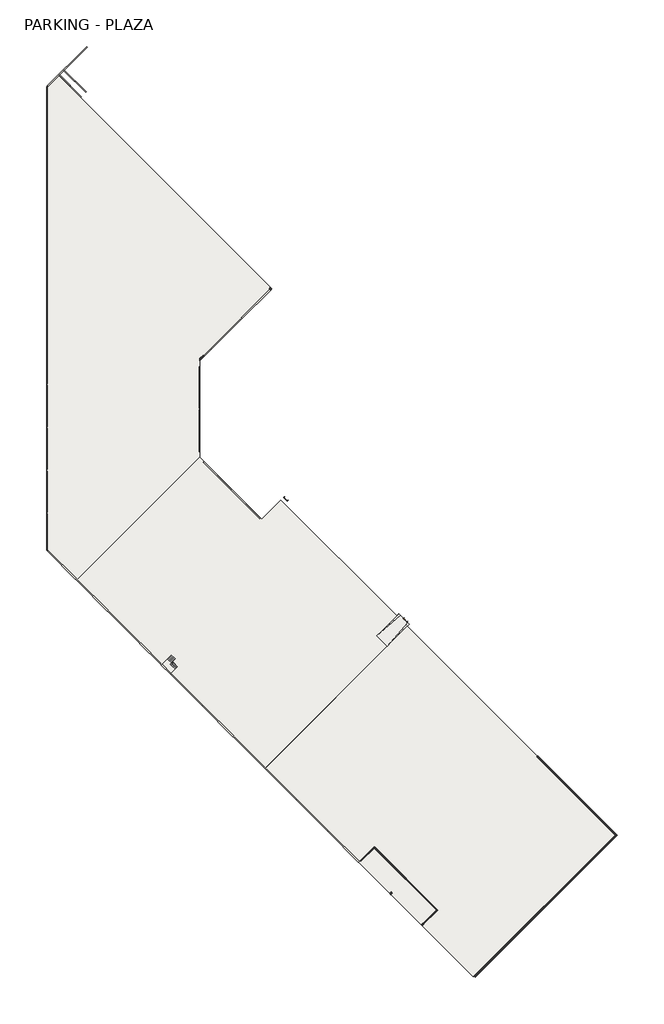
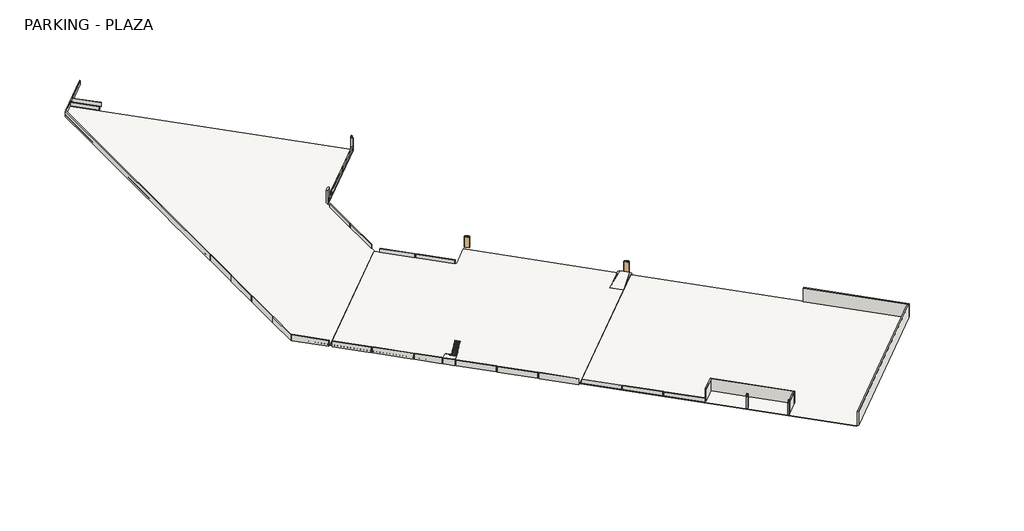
# One storey: 32 walls, 5 slabs, 3 columns, 2 doors, 2 stair flights.
"""IFC4 building model written with IfcOpenShell, lengths in millimetres."""

from ifc_helpers import new_model, si_unit, frame, origin, place, context, project, spatial, polyline, outline, extrude, faceted_brep, transform, mapped, element, save
from components import door_25aa1bd3, door_ce57b39e

model = new_model("IFC4")

# Units and contexts
model_context = context("Model", 3, world=origin())
ifc_project = project(units=[si_unit("LENGTHUNIT", "METRE", prefix="MILLI")], contexts=[model_context])

# Site, building, storey
site = spatial("IfcSite", under=ifc_project)
building = spatial("IfcBuilding", under=site)
storey = spatial("IfcBuildingStorey", under=building, Name="PARKING - PLAZA", Elevation=-152.4)

# Columns
placement = place(None, origin())
element("IfcColumn", 1, ObjectType="Rectangular Column : 12\" x 16\"", at=placement, inside=storey, context=model_context, shape_type="SweptSolid", body=[
    extrude(outline(polyline([(3378.2, 0.0), (3378.2, -406.4), (0.0, -406.4), (0.0, -152.4000001), (508.0, -152.4000001), (508.0, 0.0), (3378.2, 0.0)])), frame((-13489.2741578, -35529.594529, 3225.8), z_axis=(-0.7071067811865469, 0.7071067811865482, 0.0), x_axis=(0.0, 0.0, -1.0)), (0.0, 0.0, 1.0), 304.8),
])
element("IfcColumn", 2, ObjectType="Rectangular Column : 12\" x 16\"", at=placement, inside=storey, context=model_context, shape_type="Brep", body=[
    faceted_brep([(-7167.1738485, -41276.9584465, -152.4), (-7454.5420444, -41564.3266424, -152.4), (-7670.0681913, -41348.8004954, -152.4), (-7382.6999954, -41061.4322996, -152.4), (-7346.778971, -41097.3533241, -152.4), (-7490.4630689, -41241.037422, -152.4), (-7346.778971, -41384.7215199, -152.4), (-7203.094873, -41241.037422, -152.4), (-7167.1738485, -41276.9584465, 3225.8), (-7203.094873, -41241.037422, 2768.6), (-7239.0158975, -41205.1163975, 2768.6), (-7239.0158975, -41205.1163975, 3225.8), (-7346.778971, -41456.5635689, 3225.8), (-7346.778971, -41456.5635689, 2717.8), (-7454.5420444, -41564.3266424, 2717.8), (-7670.0681913, -41348.8004954, 2717.8), (-7562.3051179, -41241.037422, 2717.8), (-7562.3051179, -41241.037422, 3225.8), (-7382.6999954, -41061.4322996, 3225.8), (-7346.778971, -41097.3533241, 3225.8), (-7526.3840934, -41276.9584465, 3225.8), (-7490.4630689, -41241.037422, 2768.6), (-7346.778971, -41097.3533241, 2768.6), (-7346.778971, -41384.7215199, 2768.6), (-7382.6999954, -41348.8004954, 2768.6), (-7418.6210199, -41384.7215199, 2768.6), (-7418.6210199, -41384.7215199, 3225.8), (-7526.3840934, -41276.9584465, 2768.6)], [[[0, 1, 2, 3, 4, 5, 6, 7]], [[8, 0, 7, 9, 10, 11]], [[1, 0, 8, 12, 13, 14]], [[2, 1, 14, 15]], [[3, 2, 15, 16, 17, 18]], [[19, 18, 17, 20]], [[21, 5, 4, 22]], [[6, 23, 9, 7]], [[5, 21, 24, 23, 6]], [[9, 23, 24, 10]], [[11, 10, 24, 25, 26]], [[22, 19, 20, 27, 21]], [[21, 27, 25, 24]], [[3, 18, 19, 22, 4]], [[16, 13, 12, 26, 25, 27, 20, 17]], [[13, 16, 15, 14]], [[8, 11, 26, 12]]]),
])
element("IfcColumn", 3, ObjectType="Rectangular Column : 12\" x 16\"", at=placement, inside=storey, context=model_context, shape_type="Brep", body=[
    faceted_brep([(-36945.703146, 81034.1299225, -152.4), (-36730.1769991, 81249.6560694, -152.4), (-36442.8088032, 80962.2878735, -152.4), (-36658.3349501, 80746.7617266, -152.4), (-36766.0980236, 80854.5248001, -152.4), (-36442.8088032, 80962.2878735, 2768.6), (-36658.3349501, 80746.7617266, 2768.6), (-36658.3349501, 80746.7617266, 762.0), (-36730.1769991, 81249.6560694, 3225.8), (-36550.5718767, 81070.050947, 3225.8), (-36550.5718767, 81070.050947, 2768.6), (-36945.703146, 81034.1299225, 3225.8), (-36766.0980236, 80854.5248001, 2768.6), (-36766.0980236, 80854.5248001, 3225.8)], [[[0, 1, 2, 3, 4]], [[3, 2, 5, 6, 7]], [[2, 1, 8, 9, 10, 5]], [[1, 0, 11, 8]], [[11, 0, 4, 3, 7, 6, 12, 13]], [[8, 11, 13, 9]], [[12, 10, 9, 13]], [[10, 12, 6, 5]]]),
])

# Doors
door_shape = door_25aa1bd3(model_context)
element("IfcDoor", 4, ObjectType="Single Flush-Full Flush-FF : 3'-0\" X 8'-6\"", at=placement, inside=storey, context=model_context, shape_type="MappedRepresentation", body=[
    mapped(door_shape, transform((-33726.2813266, 40564.6057129, -152.4), x_axis=(0.7071067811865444, -0.7071067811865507, 0.0), y_axis=(0.7071067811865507, 0.7071067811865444, 0.0), z_axis=(0.0, 0.0, 1.0))),
])
door_2_shape = door_ce57b39e(model_context)
element("IfcDoor", 5, ObjectType="Single Flush-Full Flush-FF : 3'-0\" X 8'-6\"", at=placement, inside=storey, context=model_context, shape_type="MappedRepresentation", body=[
    mapped(door_2_shape, transform((-10687.434248, 17310.2324874, -152.4), x_axis=(-0.7071067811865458, 0.7071067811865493, 0.0), y_axis=(-0.7071067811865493, -0.7071067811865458, 0.0), z_axis=(0.0, 0.0, 1.0))),
])

# Slabs
element("IfcSlab", 6, ObjectType="5\" Concrete Slab", at=placement, inside=storey, context=model_context, shape_type="SweptSolid", body=[
    extrude(outline(polyline([(2351.8976398, -51370.7663266), (-37718.0051724, -11300.8635144), (-10364.1450276, 16052.9966304), (14627.9077573, -8939.0561545), (14538.1051961, -9028.8587157), (29615.9552234, -24106.708743), (2351.8976398, -51370.7663266)])), frame((0.0, 0.0, -279.4), z_axis=(0.0, 0.0, 1.0), x_axis=(1.0, 0.0, 0.0)), (0.0, 0.0, 1.0), 127.0),
])
element("IfcSlab", 7, ObjectType="5\" Concrete Slab", at=placement, inside=storey, context=model_context, shape_type="Brep", body=[
    faceted_brep([(-9986.9742705, 16466.088412, -279.4), (-9986.9742705, 16466.088412, -152.4), (-14243.6156719, 12209.4470106, -152.4), (-14243.6156719, 12209.4470106, -279.4), (-16255.1930431, 14221.0243817, -152.4), (-16255.1930431, 14221.0243817, -279.4), (-11998.5516417, 18477.6657831, -152.4), (-11998.5516417, 18477.6657831, -279.4), (-11729.143958, 18208.2580995, 0.0), (-10243.8852935, 16722.999435, 0.0), (-10243.8852935, 16722.999435, -127.0), (-11729.143958, 18208.2580995, -127.0)], [[[0, 1, 2, 3]], [[3, 2, 4, 5]], [[5, 4, 6, 7]], [[7, 6, 8, 9, 1, 0, 10, 11]], [[6, 4, 8]], [[7, 11, 5]], [[2, 1, 9]], [[3, 10, 0]], [[4, 2, 9, 8]], [[5, 11, 10, 3]]]),
])
element("IfcSlab", 8, ObjectType="5\" Concrete Slab", at=placement, inside=storey, context=model_context, shape_type="SweptSolid", body=[
    extrude(outline(polyline([(-77536.4608132, 122055.9398835), (-36442.8088032, 80962.2878735), (-50248.8083521, 67156.2883246), (-50248.8083521, 48656.9607152), (-73962.318877, 24943.4501903), (-79741.113691, 30722.2450042), (-79741.113691, 119851.2870058), (-77536.4608132, 122055.9398835)])), frame((0.0, 0.0, -279.4), z_axis=(0.0, 0.0, 1.0), x_axis=(1.0, 0.0, 0.0)), (0.0, 0.0, 1.0), 127.0),
])
element("IfcSlab", 9, ObjectType="5\" Concrete Slab", at=placement, inside=storey, context=model_context, shape_type="SweptSolid", body=[
    extrude(outline(polyline([(-37753.9261969, -11264.9424899), (-73926.3978526, 24907.5291658), (-50290.3637419, 48543.5632765), (-38378.0539973, 36631.2535319), (-34660.2279632, 40349.079566), (-12393.682911, 18082.5345138), (-11998.5516417, 18477.6657831), (-10220.4609297, 16699.5750711), (-10597.6316868, 16322.4043141), (-10382.1055399, 16106.8781672), (-37753.9261969, -11264.9424899)])), frame((0.0, 0.0, -279.4), z_axis=(0.0, 0.0, 1.0), x_axis=(1.0, 0.0, 0.0)), (0.0, 0.0, 1.0), 127.0),
])
element("IfcSlab", 10, ObjectType="7\" Thickness", at=placement, inside=storey, context=model_context, shape_type="Brep", body=[
    faceted_brep([(-57528.4501755, 8725.1076356, 736.6), (-55840.4519965, 7037.1094566, 736.6), (-55114.7292448, 7762.8322083, 736.6), (-55014.2684334, 7863.2930198, 736.6), (-55000.7980492, 7876.763404, 736.6), (-55737.1790511, 8613.1444059, 736.6), (-55750.6494353, 8599.6740217, 736.6), (-55789.1934084, 8561.1300486, 736.6), (-56004.4295835, 8776.3662237, 736.6), (-55865.4247989, 8915.3710083, 736.6), (-55768.3199758, 9012.4758315, 736.6), (-56504.7009777, 9748.8568334, 736.6), (-56601.8058009, 9651.7520102, 736.6), (-56518.1713619, 9735.3864493, 558.8), (-56518.1713619, 9735.3864493, 483.532845), (-56601.8058009, 9651.7520102, 558.8), (-57528.4501755, 8725.1076356, 558.8), (-55840.4519965, 7037.1094566, 558.8), (-55014.2684334, 7863.2930198, 649.2101177), (-55000.7980492, 7876.763404, 661.332845), (-55737.1790511, 8613.1444059, 661.332845), (-55750.6494353, 8599.6740217, 649.2101177), (-55789.1934084, 8561.1300486, 614.5223116), (-55789.1934084, 8561.1300486, 558.8), (-56004.4295835, 8776.3662237, 558.8), (-55851.1102468, 8499.2132102, 558.8), (-55114.7292448, 7762.8322083, 558.8), (-55865.4247989, 8915.3710083, 558.8), (-55781.7903599, 8999.0054473, 483.532845), (-55781.7903599, 8999.0054473, 558.8)], [[[0, 1, 2, 3, 4, 5, 6, 7, 8, 9, 10, 11, 12]], [[11, 13, 14, 15, 16, 0, 12]], [[1, 0, 16, 17]], [[4, 3, 18, 19]], [[6, 5, 20, 21]], [[7, 6, 21, 22]], [[8, 7, 22, 23, 24]], [[23, 25, 26, 17, 16, 15, 27, 24]], [[27, 15, 14, 28]], [[26, 25, 22, 21, 20, 19, 18]], [[11, 10, 29, 13]], [[13, 29, 28, 14]], [[1, 17, 26, 18, 3, 2]], [[5, 4, 19, 20]], [[29, 10, 9, 8, 24, 27, 28]], [[25, 23, 22]]]),
])

# Stair flights
element("IfcStairFlight", 11, ObjectType="3/4\" Nosing", at=placement, inside=storey, context=model_context, shape_type="Brep", body=[
    faceted_brep([(-55714.438439, 10539.1193721, 25.4), (-54978.0574371, 9802.7383702, 25.4), (-54991.5278213, 9789.267986, -152.4), (-55727.9088232, 10525.6489879, -152.4), (-55925.4744579, 10328.0833532, 25.4), (-55189.093456, 9591.7023513, 25.4), (-55189.093456, 9591.7023513, -49.867155), (-55075.1622603, 9705.633547, -152.4), (-55811.5432622, 10442.0145489, -152.4), (-55925.4744579, 10328.0833532, -49.867155), (-55175.6230718, 9605.1727355, 203.2), (-55912.0040737, 10341.5537374, 203.2), (-56123.0400925, 10130.5177186, 203.2), (-55386.6590906, 9394.1367167, 203.2), (-55386.6590906, 9394.1367167, 127.932845), (-56123.0400925, 10130.5177186, 127.932845), (-55373.1887064, 9407.6071008, 381.0), (-56109.5697084, 10143.9881028, 381.0), (-56320.6057272, 9932.9520839, 381.0), (-55584.2247253, 9196.571082, 381.0), (-55584.2247253, 9196.571082, 305.732845), (-56320.6057272, 9932.9520839, 305.732845), (-55781.7903599, 8999.0054473, 558.8), (-55768.3199758, 9012.4758315, 558.8), (-55570.7543411, 9210.0414662, 558.8), (-56307.135343, 9946.4224681, 558.8), (-56504.7009777, 9748.8568334, 558.8), (-56518.1713619, 9735.3864493, 558.8), (-55781.7903599, 8999.0054473, 483.532845), (-55768.3199758, 9012.4758315, 471.4101177), (-56504.7009777, 9748.8568334, 471.4101177), (-56518.1713619, 9735.3864493, 483.532845)], [[[0, 1, 2, 3]], [[1, 0, 4, 5]], [[1, 5, 6, 7, 2]], [[4, 0, 3, 8, 9]], [[10, 11, 12, 13]], [[10, 13, 14, 6, 5]], [[12, 11, 4, 9, 15]], [[5, 4, 11, 10]], [[16, 17, 18, 19]], [[16, 19, 20, 14, 13]], [[18, 17, 12, 15, 21]], [[13, 12, 17, 16]], [[22, 23, 24, 25, 26, 27]], [[23, 22, 28, 29]], [[26, 25, 18, 21, 30]], [[22, 27, 31, 28]], [[19, 18, 25, 24]], [[3, 2, 7, 8]], [[8, 7, 6, 14, 20, 29, 28, 31, 30, 21, 15, 9]], [[24, 23, 29, 20, 19]], [[27, 26, 30, 31]]]),
])
element("IfcStairFlight", 12, ObjectType="3/4\" Nosing", at=placement, inside=storey, context=model_context, shape_type="Brep", body=[
    faceted_brep([(-55014.2684334, 7863.2930198, 914.4), (-55750.6494353, 8599.6740217, 914.4), (-55737.1790511, 8613.1444059, 736.6), (-55000.7980492, 7876.763404, 736.6), (-54803.2324145, 8074.3290386, 914.4), (-55539.6134164, 8810.7100406, 914.4), (-55539.6134164, 8810.7100406, 839.132845), (-55737.1790511, 8613.1444059, 661.332845), (-55000.7980492, 7876.763404, 661.332845), (-54803.2324145, 8074.3290386, 839.132845), (-55553.0838006, 8797.2396564, 1092.2), (-54816.7027987, 8060.8586544, 1092.2), (-54605.6667799, 8271.8946733, 1092.2), (-55342.0477818, 9008.2756752, 1092.2), (-55342.0477818, 9008.2756752, 1016.932845), (-54605.6667799, 8271.8946733, 1016.932845), (-55355.518166, 8994.805291, 1270.0), (-54619.137164, 8258.4242891, 1270.0), (-54408.1011452, 8469.460308, 1270.0), (-55144.4821471, 9205.8413099, 1270.0), (-55144.4821471, 9205.8413099, 1194.732845), (-54408.1011452, 8469.460308, 1194.732845), (-55157.9525313, 9192.3709257, 1447.8), (-54421.5715294, 8455.9899238, 1447.8), (-54210.5355105, 8667.0259426, 1447.8), (-54946.9165125, 9403.4069445, 1447.8), (-54946.9165125, 9403.4069445, 1372.532845), (-54210.5355105, 8667.0259426, 1372.532845), (-54960.3868966, 9389.9365604, 1625.6), (-54224.0058947, 8653.5555584, 1625.6), (-54012.9698759, 8864.5915773, 1625.6), (-54749.3508778, 9600.9725792, 1625.6), (-54749.3508778, 9600.9725792, 1550.332845), (-54012.9698759, 8864.5915773, 1550.332845), (-54762.821262, 9587.502195, 1803.4), (-54026.44026, 8851.1211931, 1803.4), (-53815.4042412, 9062.1572119, 1803.4), (-54551.7852431, 9798.5382139, 1803.4), (-54551.7852431, 9798.5382139, 1728.132845), (-53815.4042412, 9062.1572119, 1728.132845), (-54565.2556273, 9785.0678297, 1981.2), (-53828.8746254, 9048.6868278, 1981.2), (-53617.8386065, 9259.7228466, 1981.2), (-54354.2196085, 9996.1038485, 1981.2), (-54354.2196085, 9996.1038485, 1905.932845), (-53617.8386065, 9259.7228466, 1905.932845), (-54367.6899926, 9982.6334644, 2159.0), (-53631.3089907, 9246.2524624, 2159.0), (-53420.2729719, 9457.2884813, 2159.0), (-54156.6539738, 10193.6694832, 2159.0), (-54156.6539738, 10193.6694832, 2083.732845), (-53420.2729719, 9457.2884813, 2083.732845), (-54170.124358, 10180.199099, 2336.8), (-53433.7433561, 9443.8180971, 2336.8), (-53222.7073372, 9654.8541159, 2336.8), (-53959.0883391, 10391.2351179, 2336.8), (-53959.0883391, 10391.2351179, 2261.532845), (-53222.7073372, 9654.8541159, 2261.532845), (-53774.9930887, 10575.3303683, 2427.2101177), (-53038.6120867, 9838.9493664, 2427.2101177), (-53972.5587233, 10377.7647337, 2514.6), (-53236.1777214, 9641.3837318, 2514.6), (-53038.6120867, 9838.9493664, 2514.6), (-53774.9930887, 10575.3303683, 2514.6)], [[[0, 1, 2, 3]], [[1, 0, 4, 5]], [[1, 5, 6, 7, 2]], [[3, 2, 7, 8]], [[4, 0, 3, 8, 9]], [[10, 11, 12, 13]], [[10, 13, 14, 6, 5]], [[12, 11, 4, 9, 15]], [[11, 10, 5, 4]], [[16, 17, 18, 19]], [[16, 19, 20, 14, 13]], [[18, 17, 12, 15, 21]], [[17, 16, 13, 12]], [[22, 23, 24, 25]], [[22, 25, 26, 20, 19]], [[24, 23, 18, 21, 27]], [[23, 22, 19, 18]], [[28, 29, 30, 31]], [[28, 31, 32, 26, 25]], [[30, 29, 24, 27, 33]], [[29, 28, 25, 24]], [[34, 35, 36, 37]], [[34, 37, 38, 32, 31]], [[36, 35, 30, 33, 39]], [[35, 34, 31, 30]], [[40, 41, 42, 43]], [[40, 43, 44, 38, 37]], [[42, 41, 36, 39, 45]], [[41, 40, 37, 36]], [[46, 47, 48, 49]], [[46, 49, 50, 44, 43]], [[48, 47, 42, 45, 51]], [[47, 46, 43, 42]], [[52, 53, 54, 55]], [[52, 55, 56, 50, 49]], [[54, 53, 48, 51, 57]], [[53, 52, 49, 48]], [[7, 6, 14, 20, 26, 32, 38, 44, 50, 56, 58, 59, 57, 51, 45, 39, 33, 27, 21, 15, 9, 8]], [[60, 61, 62, 63]], [[60, 63, 58, 56, 55]], [[62, 61, 54, 57, 59]], [[63, 62, 59, 58]], [[61, 60, 55, 54]]]),
])

# Walls
element("IfcWall", 13, ObjectType="01-CONCRETE-12", at=placement, inside=storey, context=model_context, shape_type="Brep", body=[
    faceted_brep([(14538.1051961, -9028.8587157, -152.4), (29615.9552234, -24106.708743, -152.4), (29831.4813703, -24322.2348899, -152.4), (29831.4813703, -24322.2348899, 3073.4), (29615.9552234, -24106.708743, 3073.4), (14538.1051961, -9028.8587157, 3073.4), (14753.631343, -8813.3325688, -152.4), (14753.631343, -8813.3325688, 3073.4), (30047.0075172, -24106.708743, 3073.4), (30047.0075172, -24106.708743, -152.4)], [[[0, 1, 2, 3, 4, 5]], [[6, 7, 8, 9]], [[2, 1, 0, 6, 9]], [[5, 4, 3, 8, 7]], [[0, 5, 7, 6]], [[3, 2, 9, 8]]]),
])
element("IfcWall", 14, ObjectType="01-CONCRETE-12", at=placement, inside=storey, context=model_context, shape_type="SweptSolid", body=[
    extrude(outline(polyline([(2459.6607133, -51263.0032531), (29615.9552234, -24106.708743), (29831.4813703, -24322.2348899), (2675.1868602, -51478.5294), (2459.6607133, -51263.0032531)])), frame((0.0, 0.0, -152.4), z_axis=(0.0, 0.0, 1.0), x_axis=(1.0, 0.0, 0.0)), (0.0, 0.0, 1.0), 3225.8),
])
element("IfcWall", 15, ObjectType="01-CONCRETE-12", at=placement, inside=storey, context=model_context, shape_type="Brep", body=[
    faceted_brep([(-50248.8083521, 67156.2883246, 3098.8), (-50248.8083521, 67156.2883246, -152.4), (-49386.7037645, 68018.3929123, -152.4), (-49386.7037645, 68018.3929123, 762.0), (-49386.7037645, 68018.3929123, 3098.8), (-50248.8083521, 67587.3406185, -152.4), (-50248.8083521, 67587.3406185, 2768.6), (-50248.8083521, 67587.3406185, 3098.8), (-49602.2299114, 68233.9190592, 3098.8), (-49602.2299114, 68233.9190592, -152.4), (-49494.4668379, 68126.1559857, -152.4), (-50248.8083521, 67371.8144716, 3098.8)], [[[0, 1, 2, 3, 4]], [[5, 6, 7, 8, 9]], [[2, 1, 5, 9, 10]], [[4, 3, 2, 10, 9, 8]], [[0, 4, 8, 7, 11]], [[0, 11, 7, 6, 5, 1]]]),
])
element("IfcWall", 16, ObjectType="01-CONCRETE-6", at=placement, inside=storey, context=model_context, shape_type="SweptSolid", body=[
    extrude(outline(polyline([(-37394.7159521, -11408.6265878), (-31701.2335713, -17102.1089686), (-31808.9966447, -17209.872042), (-37502.4790255, -11516.3896613), (-37394.7159521, -11408.6265878)])), frame((0.0, 0.0, -152.4), z_axis=(0.0, 0.0, 1.0), x_axis=(1.0, 0.0, 0.0)), (0.0, 0.0, 1.0), 914.4),
])
element("IfcWall", 17, ObjectType="01-CONCRETE-6", at=placement, inside=storey, context=model_context, shape_type="SweptSolid", body=[
    extrude(outline(polyline([(-25774.2645314, -23244.6041554), (-31593.4704978, -17425.3981889), (-31485.7074244, -17317.6351155), (-25666.5014579, -23136.8410819), (-25774.2645314, -23244.6041554)])), frame((0.0, 0.0, -152.4), z_axis=(0.0, 0.0, 1.0), x_axis=(1.0, 0.0, 0.0)), (0.0, 0.0, 1.0), 914.4),
])
element("IfcWall", 18, ObjectType="01-CONCRETE-6", at=placement, inside=storey, context=model_context, shape_type="SweptSolid", body=[
    extrude(outline(polyline([(-25450.975311, -23352.3672288), (-19631.7693446, -29171.5731953), (-19739.532418, -29279.3362687), (-25558.7383845, -23460.1303023), (-25450.975311, -23352.3672288)])), frame((0.0, 0.0, -152.4), z_axis=(0.0, 0.0, 1.0), x_axis=(1.0, 0.0, 0.0)), (0.0, 0.0, 1.0), 914.4),
])
element("IfcWall", 19, ObjectType="01-CONCRETE-6", at=placement, inside=storey, context=model_context, shape_type="SweptSolid", body=[
    extrude(outline(polyline([(-37969.4523438, -11049.416343), (-43662.9347246, -5355.9339622), (-43555.1716511, -5248.1708888), (-37861.6892703, -10941.6532695), (-37969.4523438, -11049.416343)])), frame((0.0, 0.0, -609.6), z_axis=(0.0, 0.0, 1.0), x_axis=(1.0, 0.0, 0.0)), (0.0, 0.0, 1.0), 1371.6),
])
element("IfcWall", 20, ObjectType="01-CONCRETE-6", at=placement, inside=storey, context=model_context, shape_type="SweptSolid", body=[
    extrude(outline(polyline([(-49589.9037645, 786.5612246), (-43770.697798, -5032.6447418), (-43878.4608715, -5140.4078153), (-49697.6668379, 678.7981512), (-49589.9037645, 786.5612246)])), frame((0.0, 0.0, -609.6), z_axis=(0.0, 0.0, 1.0), x_axis=(1.0, 0.0, 0.0)), (0.0, 0.0, 1.0), 1371.6),
])
element("IfcWall", 21, ObjectType="01-CONCRETE-6", at=placement, inside=storey, context=model_context, shape_type="SweptSolid", body=[
    extrude(outline(polyline([(-49913.1929848, 894.3242981), (-55732.3989513, 6713.5302645), (-55624.6358778, 6821.293338), (-49805.4299114, 1002.0873715), (-49913.1929848, 894.3242981)])), frame((0.0, 0.0, -609.6), z_axis=(0.0, 0.0, 1.0), x_axis=(1.0, 0.0, 0.0)), (0.0, 0.0, 1.0), 1371.6),
])
element("IfcWall", 22, ObjectType="01-CONCRETE-6", at=placement, inside=storey, context=model_context, shape_type="SweptSolid", body=[
    extrude(outline(polyline([(-61659.3679912, 12856.0254513), (-57743.9763224, 8940.6337825), (-57851.7393958, 8832.8707091), (-61767.1310646, 12748.2623779), (-61659.3679912, 12856.0254513)])), frame((0.0, 0.0, -609.6), z_axis=(0.0, 0.0, 1.0), x_axis=(1.0, 0.0, 0.0)), (0.0, 0.0, 1.0), 1371.6),
])
element("IfcWall", 23, ObjectType="01-CONCRETE-6", at=placement, inside=storey, context=model_context, shape_type="SweptSolid", body=[
    extrude(outline(polyline([(-61982.6572115, 12963.7885248), (-67801.863178, 18782.9944912), (-67694.1001045, 18890.7575647), (-61874.8941381, 13071.5515982), (-61982.6572115, 12963.7885248)])), frame((0.0, 0.0, -609.6), z_axis=(0.0, 0.0, 1.0), x_axis=(1.0, 0.0, 0.0)), (0.0, 0.0, 1.0), 1371.6),
])
element("IfcWall", 24, ObjectType="01-CONCRETE-6", at=placement, inside=storey, context=model_context, shape_type="SweptSolid", body=[
    extrude(outline(polyline([(-73603.1086322, 24799.7660923), (-67909.6262514, 19106.2837116), (-68017.3893249, 18998.5206381), (-73710.8717057, 24692.0030189), (-73603.1086322, 24799.7660923)])), frame((0.0, 0.0, -609.6), z_axis=(0.0, 0.0, 1.0), x_axis=(1.0, 0.0, 0.0)), (0.0, 0.0, 1.0), 1371.6),
])
element("IfcWall", 25, ObjectType="01-CONCRETE-6", at=placement, inside=storey, context=model_context, shape_type="SweptSolid", body=[
    extrude(outline(polyline([(-74177.845024, 25158.9763372), (-79525.587544, 30506.7188573), (-79417.8244706, 30614.4819307), (-74070.0819505, 25266.7394106), (-74177.845024, 25158.9763372)])), frame((0.0, 0.0, -609.6), z_axis=(0.0, 0.0, 1.0), x_axis=(1.0, 0.0, 0.0)), (0.0, 0.0, 1.0), 1371.6),
])
element("IfcWall", 26, ObjectType="01-CONCRETE-6", at=placement, inside=storey, context=model_context, shape_type="Brep", body=[
    faceted_brep([(-79588.713691, 30722.2450042, -609.6), (-79588.713691, 30874.6450042, -609.6), (-79588.713691, 37705.0660287, -609.6), (-79588.713691, 37705.0660287, 762.0), (-79588.713691, 30874.6450042, 762.0), (-79588.713691, 30722.2450042, 762.0), (-79741.113691, 30722.2450042, -609.6), (-79741.113691, 30722.2450042, 762.0), (-79741.113691, 37705.0660287, 762.0), (-79741.113691, 37705.0660287, -609.6)], [[[0, 1, 2, 3, 4, 5]], [[6, 7, 8, 9]], [[2, 1, 0, 6, 9]], [[3, 2, 9, 8]], [[5, 4, 3, 8, 7]], [[0, 5, 7, 6]]]),
])
element("IfcWall", 27, ObjectType="01-CONCRETE-6", at=placement, inside=storey, context=model_context, shape_type="SweptSolid", body=[
    extrude(outline(polyline([(-79741.113691, 38009.8660287), (-79741.113691, 45934.6660287), (-79588.713691, 45934.6660287), (-79588.713691, 38009.8660287), (-79741.113691, 38009.8660287)])), frame((0.0, 0.0, -609.6), z_axis=(0.0, 0.0, 1.0), x_axis=(1.0, 0.0, 0.0)), (0.0, 0.0, 1.0), 1371.6),
])
element("IfcWall", 28, ObjectType="01-CONCRETE-6", at=placement, inside=storey, context=model_context, shape_type="SweptSolid", body=[
    extrude(outline(polyline([(-79588.713691, 54164.2660287), (-79588.713691, 46239.4660287), (-79741.113691, 46239.4660287), (-79741.113691, 54164.2660287), (-79588.713691, 54164.2660287)])), frame((0.0, 0.0, -609.6), z_axis=(0.0, 0.0, 1.0), x_axis=(1.0, 0.0, 0.0)), (0.0, 0.0, 1.0), 1371.6),
])
element("IfcWall", 29, ObjectType="01-CONCRETE-6", at=placement, inside=storey, context=model_context, shape_type="SweptSolid", body=[
    extrude(outline(polyline([(-55947.9250982, 6929.0564114), (-57636.2132489, 8617.3445622), (-57528.4501755, 8725.1076356), (-55840.1620247, 7036.8194849), (-55947.9250982, 6929.0564114)])), frame((0.0, 0.0, -609.6), z_axis=(0.0, 0.0, 1.0), x_axis=(1.0, 0.0, 0.0)), (0.0, 0.0, 1.0), 1371.6),
])
element("IfcWall", 30, ObjectType="01-CONCRETE-6", at=placement, inside=storey, context=model_context, shape_type="SweptSolid", body=[
    extrude(outline(polyline([(-44165.8290673, 42419.0286019), (-38593.5801442, 36846.7796788), (-38701.3432177, 36739.0166053), (-44273.5921408, 42311.2655284), (-44165.8290673, 42419.0286019)])), frame((0.0, 0.0, -152.4), z_axis=(0.0, 0.0, 1.0), x_axis=(1.0, 0.0, 0.0)), (0.0, 0.0, 1.0), 914.4),
])
element("IfcWall", 31, ObjectType="01-CONCRETE-6", at=placement, inside=storey, context=model_context, shape_type="SweptSolid", body=[
    extrude(outline(polyline([(-49446.2196665, 47699.4192011), (-44381.3552142, 42634.5547488), (-44489.1182877, 42526.7916753), (-49553.98274, 47591.6561276), (-49446.2196665, 47699.4192011)])), frame((0.0, 0.0, -152.4), z_axis=(0.0, 0.0, 1.0), x_axis=(1.0, 0.0, 0.0)), (0.0, 0.0, 1.0), 914.4),
])
element("IfcWall", 32, ObjectType="01-CONCRETE-6", at=placement, inside=storey, context=model_context, shape_type="SweptSolid", body=[
    extrude(outline(polyline([(-50248.8083521, 57682.4896908), (-50248.8083521, 49637.0396908), (-50401.2083521, 49637.0396908), (-50401.2083521, 57682.4896908), (-50248.8083521, 57682.4896908)])), frame((0.0, 0.0, -152.4), z_axis=(0.0, 0.0, 1.0), x_axis=(1.0, 0.0, 0.0)), (0.0, 0.0, 1.0), 914.4),
])
element("IfcWall", 33, ObjectType="01-CONCRETE-6", at=placement, inside=storey, context=model_context, shape_type="SweptSolid", body=[
    extrude(outline(polyline([(-50401.2083521, 57987.2896908), (-50401.2083521, 66032.7396908), (-50248.8083521, 66032.7396908), (-50248.8083521, 57987.2896908), (-50401.2083521, 57987.2896908)])), frame((0.0, 0.0, -152.4), z_axis=(0.0, 0.0, 1.0), x_axis=(1.0, 0.0, 0.0)), (0.0, 0.0, 1.0), 914.4),
])
element("IfcWall", 34, ObjectType="01-CONCRETE-6", at=placement, inside=storey, context=model_context, shape_type="SweptSolid", body=[
    extrude(outline(polyline([(-48171.0232973, 69234.0733794), (-49386.7037645, 68018.3929123), (-49494.4668379, 68126.1559857), (-48278.7863708, 69341.8364529), (-48171.0232973, 69234.0733794)])), frame((0.0, 0.0, -152.4), z_axis=(0.0, 0.0, 1.0), x_axis=(1.0, 0.0, 0.0)), (0.0, 0.0, 1.0), 914.4),
])
element("IfcWall", 35, ObjectType="01-CONCRETE-6", at=placement, inside=storey, context=model_context, shape_type="SweptSolid", body=[
    extrude(outline(polyline([(-42351.8173309, 75053.2793459), (-47955.4971504, 69449.5995263), (-48063.2602239, 69557.3625998), (-42459.5804043, 75161.0424193), (-42351.8173309, 75053.2793459)])), frame((0.0, 0.0, -152.4), z_axis=(0.0, 0.0, 1.0), x_axis=(1.0, 0.0, 0.0)), (0.0, 0.0, 1.0), 914.4),
])
element("IfcWall", 36, ObjectType="01-CONCRETE-6", at=placement, inside=storey, context=model_context, shape_type="SweptSolid", body=[
    extrude(outline(polyline([(-42244.0542574, 75376.5685662), (-36766.0980236, 80854.5248001), (-36658.3349501, 80746.7617266), (-42136.291184, 75268.8054928), (-42244.0542574, 75376.5685662)])), frame((0.0, 0.0, -152.4), z_axis=(0.0, 0.0, 1.0), x_axis=(1.0, 0.0, 0.0)), (0.0, 0.0, 1.0), 914.4),
])
element("IfcWall", 37, ObjectType="01-CONCRETE-6", at=placement, inside=storey, context=model_context, shape_type="SweptSolid", body=[
    extrude(outline(polyline([(-79741.113691, 54469.0660287), (-79741.113691, 62393.8660287), (-79588.713691, 62393.8660287), (-79588.713691, 54469.0660287), (-79741.113691, 54469.0660287)])), frame((0.0, 0.0, -609.6), z_axis=(0.0, 0.0, 1.0), x_axis=(1.0, 0.0, 0.0)), (0.0, 0.0, 1.0), 1371.6),
])
element("IfcWall", 38, ObjectType="01-CONCRETE-6", at=placement, inside=storey, context=model_context, shape_type="Brep", body=[
    faceted_brep([(-79588.713691, 62698.6660287, -609.6), (-79588.713691, 70623.4660287, -609.6), (-79588.713691, 70928.2660287, -609.6), (-79588.713691, 78853.0660287, -609.6), (-79588.713691, 79157.8660287, -609.6), (-79588.713691, 87082.6660287, -609.6), (-79588.713691, 87387.4660287, -609.6), (-79588.713691, 95312.2660287, -609.6), (-79588.713691, 95617.0660287, -609.6), (-79588.713691, 103541.8660287, -609.6), (-79588.713691, 103846.6660287, -609.6), (-79588.713691, 111771.4660287, -609.6), (-79588.713691, 112076.2660287, -609.6), (-79588.713691, 119698.8870058, -609.6), (-79588.713691, 120003.6870058, -609.6), (-79588.713691, 120003.6870058, -279.4), (-79588.713691, 120003.6870058, -152.4), (-79588.713691, 120003.6870058, 762.0), (-79588.713691, 119788.1608589, 762.0), (-79588.713691, 62698.6660287, 762.0), (-79741.113691, 62698.6660287, -609.6), (-79741.113691, 62698.6660287, 762.0), (-79741.113691, 119851.2870058, 762.0), (-79741.113691, 119851.2870058, -609.6), (-79741.113691, 112076.2660287, -609.6), (-79741.113691, 111771.4660287, -609.6), (-79741.113691, 103846.6660287, -609.6), (-79741.113691, 103541.8660287, -609.6), (-79741.113691, 95617.0660287, -609.6), (-79741.113691, 95312.2660287, -609.6), (-79741.113691, 87387.4660287, -609.6), (-79741.113691, 87082.6660287, -609.6), (-79741.113691, 79157.8660287, -609.6), (-79741.113691, 78853.0660287, -609.6), (-79741.113691, 70928.2660287, -609.6), (-79741.113691, 70623.4660287, -609.6)], [[[0, 1, 2, 3, 4, 5, 6, 7, 8, 9, 10, 11, 12, 13, 14, 15, 16, 17, 18, 19]], [[20, 21, 22, 23, 24, 25, 26, 27, 28, 29, 30, 31, 32, 33, 34, 35]], [[14, 13, 12, 11, 10, 9, 8, 7, 6, 5, 4, 3, 2, 1, 0, 20, 35, 34, 33, 32, 31, 30, 29, 28, 27, 26, 25, 24, 23]], [[19, 18, 17, 22, 21]], [[0, 19, 21, 20]], [[17, 16, 15, 14, 23, 22]]]),
])
element("IfcWall", 39, ObjectType="01-CONCRETE-6", at=placement, inside=storey, context=model_context, shape_type="Brep", body=[
    faceted_brep([(-72014.7139201, 127577.6867767, -152.4), (-79588.713691, 120003.6870058, -152.4), (-79588.713691, 120003.6870058, 762.0), (-72014.7139201, 127577.6867767, 762.0), (-71906.9508466, 127469.9237032, -152.4), (-71906.9508466, 127469.9237032, 762.0), (-76315.1459808, 123061.7285691, 762.0), (-76422.9090542, 122953.9654956, 762.0), (-77231.1321051, 122145.7424447, 762.0), (-77338.8951786, 122037.9793713, 762.0), (-79588.713691, 119788.1608589, 762.0), (-79588.713691, 119788.1608589, -152.4), (-77338.8951786, 122037.9793713, -152.4), (-77231.1321051, 122145.7424447, -152.4), (-76422.9090542, 122953.9654956, -152.4), (-76315.1459808, 123061.7285691, -152.4)], [[[0, 1, 2, 3]], [[4, 5, 6, 7, 8, 9, 10, 11, 12, 13, 14, 15]], [[1, 0, 4, 15, 14, 13, 12, 11]], [[3, 2, 10, 9, 8, 7, 6, 5]], [[0, 3, 5, 4]], [[2, 1, 11, 10]]]),
])
element("IfcWall", 40, ObjectType="01-CONCRETE-6", at=placement, inside=storey, context=model_context, shape_type="SweptSolid", body=[
    extrude(outline(polyline([(-73136.1353139, 117835.2195066), (-77338.8951786, 122037.9793713), (-77231.1321051, 122145.7424447), (-73028.3722405, 117942.9825801), (-73136.1353139, 117835.2195066)])), frame((0.0, 0.0, -152.4), z_axis=(0.0, 0.0, 1.0), x_axis=(1.0, 0.0, 0.0)), (0.0, 0.0, 1.0), 914.4),
])
element("IfcWall", 41, ObjectType="01-CONCRETE-6", at=placement, inside=storey, context=model_context, shape_type="SweptSolid", body=[
    extrude(outline(polyline([(-76315.1459808, 123061.7285691), (-72112.3861161, 118858.9687044), (-72220.1491896, 118751.205631), (-76422.9090542, 122953.9654956), (-76315.1459808, 123061.7285691)])), frame((0.0, 0.0, -152.4), z_axis=(0.0, 0.0, 1.0), x_axis=(1.0, 0.0, 0.0)), (0.0, 0.0, 1.0), 914.4),
])
element("IfcWall", 42, ObjectType="01-MASONRY-8", at=placement, inside=storey, context=model_context, shape_type="Brep", body=[
    faceted_brep([(-19272.5590997, -29171.5731953, -152.4), (-16686.2453369, -26585.2594324, -152.4), (-16542.5612389, -26441.5753345, -152.4), (-16542.5612389, -26441.5753345, 2768.6), (-16686.2453369, -26585.2594324, 2768.6), (-19272.5590997, -29171.5731953, 2768.6), (-19416.2431977, -29027.8890973, -152.4), (-19416.2431977, -29027.8890973, 2768.6), (-16686.2453369, -26297.8912365, 2768.6), (-16686.2453369, -26297.8912365, -152.4), (-19380.3221732, -29063.8101218, 2768.6)], [[[0, 1, 2, 3, 4, 5]], [[6, 7, 8, 9]], [[2, 1, 0, 6, 9]], [[5, 4, 3, 8, 7, 10]], [[0, 5, 10, 7, 6]], [[3, 2, 9, 8]]]),
])
element("IfcWall", 43, ObjectType="01-MASONRY-8", at=placement, inside=storey, context=model_context, shape_type="Brep", body=[
    faceted_brep([(-16686.2453369, -26585.2594324, -152.4), (-4760.4652081, -38511.0395612, -152.4), (-4616.7811102, -38654.7236591, -152.4), (-4616.7811102, -38654.7236591, 2768.6), (-4760.4652081, -38511.0395612, 2768.6), (-16686.2453369, -26585.2594324, 2768.6), (-16542.5612389, -26441.5753345, -152.4), (-16542.5612389, -26441.5753345, 2768.6), (-4473.0970122, -38511.0395612, 2768.6), (-4473.0970122, -38511.0395612, -152.4)], [[[0, 1, 2, 3, 4, 5]], [[6, 7, 8, 9]], [[2, 1, 0, 6, 9]], [[5, 4, 3, 8, 7]], [[0, 5, 7, 6]], [[3, 2, 9, 8]]]),
])
element("IfcWall", 44, ObjectType="01-MASONRY-8", at=placement, inside=storey, context=model_context, shape_type="Brep", body=[
    faceted_brep([(-4760.4652081, -38511.0395612, -152.4), (-7346.778971, -41097.3533241, -152.4), (-7490.4630689, -41241.037422, -152.4), (-7490.4630689, -41241.037422, 2768.6), (-4760.4652081, -38511.0395612, 2768.6), (-4616.7811102, -38654.7236591, -152.4), (-4616.7811102, -38654.7236591, 2768.6), (-7203.094873, -41241.037422, 2768.6), (-7346.778971, -41384.7215199, 2768.6), (-7346.778971, -41384.7215199, -152.4), (-7203.094873, -41241.037422, -152.4), (-7382.6999954, -41348.8004954, 2768.6)], [[[0, 1, 2, 3, 4]], [[5, 6, 7, 8, 9, 10]], [[2, 1, 0, 5, 10, 9]], [[3, 2, 9, 8, 11]], [[4, 3, 11, 8, 7, 6]], [[0, 4, 6, 5]]]),
])

save(model, "model.ifc")
